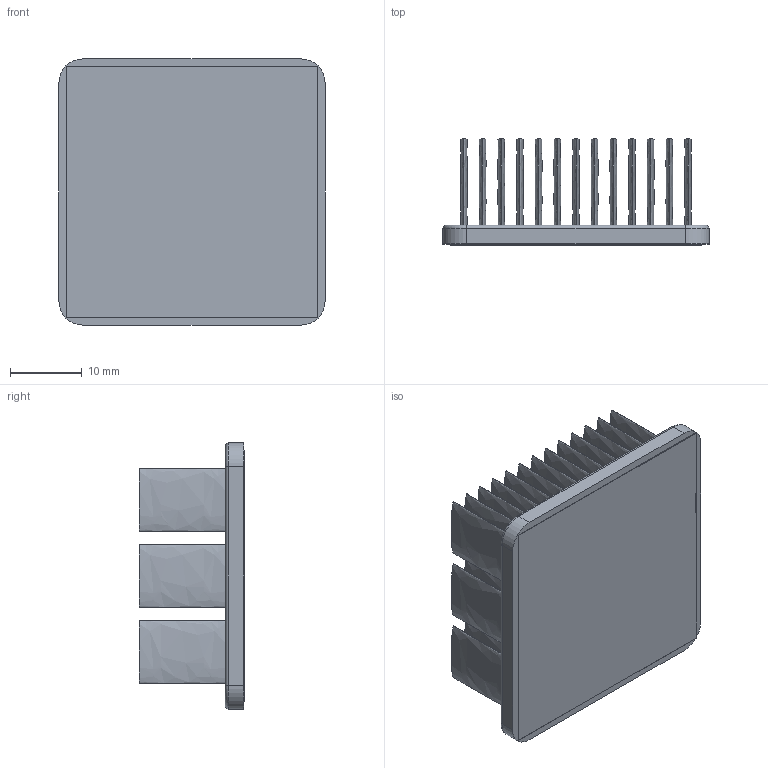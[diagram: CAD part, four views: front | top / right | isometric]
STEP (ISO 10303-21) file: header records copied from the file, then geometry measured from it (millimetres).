
FILE_DESCRIPTION (( 'STEP AP214' ), '1' );
FILE_NAME ('INM37.5001-15W-2.6.STEP', '2023-02-21T00:57:55', ( '' ), ( '' ), 'SwSTEP 2.0', 'SolidWorks 2020', '' );
FILE_SCHEMA (( 'AUTOMOTIVE_DESIGN' ));
Length unit declared in the file: inch
Products named in the file (1): INM37.5001-15W-2.6
Bounding box: 37.1 x 14.73 x 37.1 mm (x, y, z)
Volume: 6820.1 mm3; surface area: 13921.8 mm2
Topology: 2 solids, 2 shells, 141 faces, 286 edges, 188 vertices
Faces by surface type: bspline 78, plane 51, cylinder 8, torus 4
Entity records: 5734 total; most frequent: CARTESIAN_POINT 1630, ORIENTED_EDGE 572, EDGE_CURVE 286, DIRECTION 278, VERTEX_POINT 188, EDGE_LOOP 180, DIMENSIONAL_EXPONENTS 145, LENGTH_MEASURE_WITH_UNIT 145
